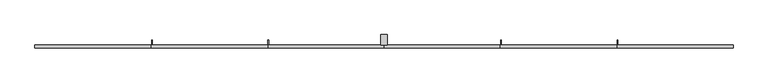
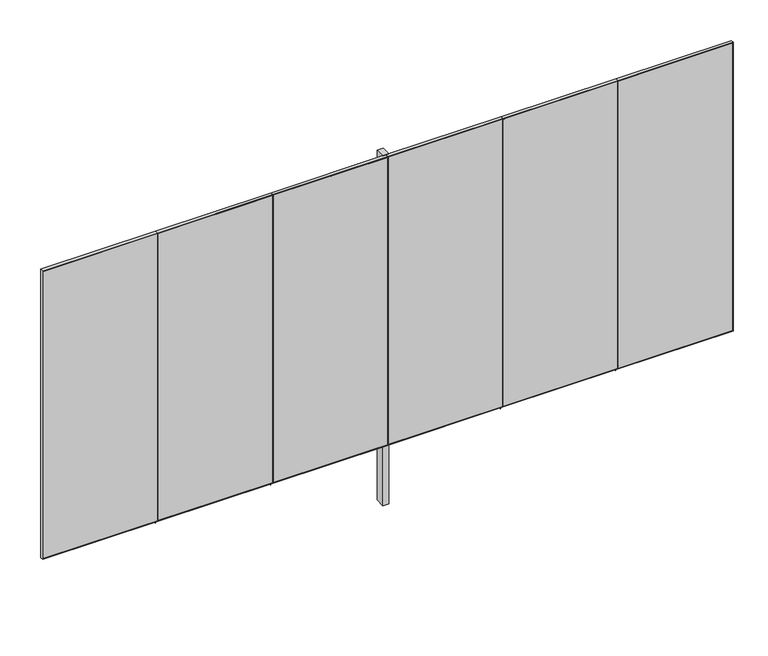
"""IFC4 building model written with IfcOpenShell, lengths in millimetres: furniture geometry, H105 Reja 6 módulos : H105.1 Reja 6 módulos 690x310."""

from ifc_helpers import new_model, si_unit, frame, origin, place, context, project, spatial, polyline, outline, extrude, source, transform, mapped, element, save


def furniture_b4863d8b(model_context):
    return source(origin(), model_context, "Body", "SweptSolid", [
        extrude(outline(polyline([(1224.7003264, -468.0), (1224.7003264, -568.0), (1164.7003264, -568.0), (1164.7003264, -468.0), (1224.7003264, -468.0)])), frame((0.0, 0.0, -600.0), z_axis=(0.0, 0.0, 1.0), x_axis=(1.0, 0.0, 0.0)), (0.0, 0.0, 1.0), 3700.0),
        extrude(outline(polyline([(3100.0, 3494.7003264), (3100.0, 2344.7003264), (50.0, 2344.7003264), (50.0, 3494.7003264), (3100.0, 3494.7003264)]), holes=[polyline([(3093.0, 3491.2003264), (57.0, 3491.2003264), (57.0, 2348.2003264), (3093.0, 2348.2003264), (3093.0, 3491.2003264)])]), frame((0.0, -600.0, 0.0), z_axis=(0.0, 1.0, 0.0), x_axis=(0.0, 0.0, 1.0)), (0.0, 0.0, 1.0), 32.0),
        extrude(outline(polyline([(3491.2003264, -600.0), (2348.2003264, -600.0), (2348.2003264, -597.0), (3491.2003264, -597.0), (3491.2003264, -600.0)])), frame((0.0, 0.0, 57.0), z_axis=(0.0, 0.0, 1.0), x_axis=(1.0, 0.0, 0.0)), (0.0, 0.0, 1.0), 3036.0),
        extrude(outline(polyline([(3100.0, 2344.7003264), (3100.0, 1194.7003264), (50.0, 1194.7003264), (50.0, 2344.7003264), (3100.0, 2344.7003264)]), holes=[polyline([(3093.0, 2341.2003264), (57.0, 2341.2003264), (57.0, 1198.2003264), (3093.0, 1198.2003264), (3093.0, 2341.2003264)])]), frame((0.0, -600.0, 0.0), z_axis=(0.0, 1.0, 0.0), x_axis=(0.0, 0.0, 1.0)), (0.0, 0.0, 1.0), 32.0),
        extrude(outline(polyline([(2341.2003264, -600.0), (1198.2003264, -600.0), (1198.2003264, -597.0), (2341.2003264, -597.0), (2341.2003264, -600.0)])), frame((0.0, 0.0, 57.0), z_axis=(0.0, 0.0, 1.0), x_axis=(1.0, 0.0, 0.0)), (0.0, 0.0, 1.0), 3036.0),
        extrude(outline(polyline([(3100.0, 44.7003264), (3100.0, -1105.2996736), (50.0, -1105.2996736), (50.0, 44.7003264), (3100.0, 44.7003264)]), holes=[polyline([(3093.0, 41.2003264), (57.0, 41.2003264), (57.0, -1101.7996736), (3093.0, -1101.7996736), (3093.0, 41.2003264)])]), frame((0.0, -600.0, 0.0), z_axis=(0.0, 1.0, 0.0), x_axis=(0.0, 0.0, 1.0)), (0.0, 0.0, 1.0), 32.0),
        extrude(outline(polyline([(4637.7003264, -600.0), (3498.2003264, -600.0), (3498.2003264, -597.0), (4637.7003264, -597.0), (4637.7003264, -600.0)])), frame((0.0, 0.0, 57.0), z_axis=(0.0, 0.0, 1.0), x_axis=(1.0, 0.0, 0.0)), (0.0, 0.0, 1.0), 3036.0),
        extrude(outline(polyline([(3100.0, 4644.7003264), (3100.0, 3494.7003264), (50.0, 3494.7003264), (50.0, 4644.7003264), (3100.0, 4644.7003264)]), holes=[polyline([(3093.0, 4637.7003264), (57.0, 4637.7003264), (57.0, 3498.2003264), (3093.0, 3498.2003264), (3093.0, 4637.7003264)])]), frame((0.0, -600.0, 0.0), z_axis=(0.0, 1.0, 0.0), x_axis=(0.0, 0.0, 1.0)), (0.0, 0.0, 1.0), 32.0),
        extrude(outline(polyline([(1191.2003264, -600.0), (48.2003264, -600.0), (48.2003264, -597.0), (1191.2003264, -597.0), (1191.2003264, -600.0)])), frame((0.0, 0.0, 57.0), z_axis=(0.0, 0.0, 1.0), x_axis=(1.0, 0.0, 0.0)), (0.0, 0.0, 1.0), 3036.0),
        extrude(outline(polyline([(3100.0, 1194.7003264), (3100.0, 44.7003264), (50.0, 44.7003264), (50.0, 1194.7003264), (3100.0, 1194.7003264)]), holes=[polyline([(3093.0, 1191.2003264), (57.0, 1191.2003264), (57.0, 48.2003264), (3093.0, 48.2003264), (3093.0, 1191.2003264)])]), frame((0.0, -600.0, 0.0), z_axis=(0.0, 1.0, 0.0), x_axis=(0.0, 0.0, 1.0)), (0.0, 0.0, 1.0), 32.0),
        extrude(outline(polyline([(41.2003264, -600.0), (-1101.7996736, -600.0), (-1101.7996736, -597.0), (41.2003264, -597.0), (41.2003264, -600.0)])), frame((0.0, 0.0, 57.0), z_axis=(0.0, 0.0, 1.0), x_axis=(1.0, 0.0, 0.0)), (0.0, 0.0, 1.0), 3036.0),
        extrude(outline(polyline([(-1108.7996736, -600.0), (-2248.2996736, -600.0), (-2248.2996736, -597.0), (-1108.7996736, -597.0), (-1108.7996736, -600.0)])), frame((0.0, 0.0, 57.0), z_axis=(0.0, 0.0, 1.0), x_axis=(1.0, 0.0, 0.0)), (0.0, 0.0, 1.0), 3036.0),
        extrude(outline(polyline([(3100.0, -1105.2996736), (3100.0, -2255.2996736), (50.0, -2255.2996736), (50.0, -1105.2996736), (3100.0, -1105.2996736)]), holes=[polyline([(3093.0, -1108.7996736), (57.0, -1108.7996736), (57.0, -2248.2996736), (3093.0, -2248.2996736), (3093.0, -1108.7996736)])]), frame((0.0, -600.0, 0.0), z_axis=(0.0, 1.0, 0.0), x_axis=(0.0, 0.0, 1.0)), (0.0, 0.0, 1.0), 32.0),
        extrude(outline(polyline([(-522.0, 82.0), (-522.0, 0.0), (-547.0, 0.0), (-547.0, 57.0), (-597.0, 57.0), (-597.0, 82.0), (-522.0, 82.0)])), frame((2348.2003264, 0.0, 0.0), z_axis=(1.0, 0.0, 0.0), x_axis=(0.0, 1.0, 0.0)), (0.0, 0.0, 1.0), 7.0),
        extrude(outline(polyline([(-522.0, 82.0), (-522.0, 0.0), (-547.0, 0.0), (-547.0, 57.0), (-597.0, 57.0), (-597.0, 82.0), (-522.0, 82.0)])), frame((3498.2003264, 0.0, 0.0), z_axis=(1.0, 0.0, 0.0), x_axis=(0.0, 1.0, 0.0)), (0.0, 0.0, 1.0), 7.0),
        extrude(outline(polyline([(-522.0, 82.0), (-522.0, 0.0), (-547.0, 0.0), (-547.0, 57.0), (-597.0, 57.0), (-597.0, 82.0), (-522.0, 82.0)])), frame((-1101.7996736, 0.0, 0.0), z_axis=(1.0, 0.0, 0.0), x_axis=(0.0, 1.0, 0.0)), (0.0, 0.0, 1.0), 7.0),
        extrude(outline(polyline([(-522.0, 82.0), (-522.0, 0.0), (-547.0, 0.0), (-547.0, 57.0), (-597.0, 57.0), (-597.0, 82.0), (-522.0, 82.0)])), frame((48.2003264, 0.0, 0.0), z_axis=(1.0, 0.0, 0.0), x_axis=(0.0, 1.0, 0.0)), (0.0, 0.0, 1.0), 7.0),
    ])


if __name__ == "__main__":
    model = new_model("IFC4")
    model_context = context("Model", 3, world=origin())
    ifc_project = project(units=[si_unit("LENGTHUNIT", "METRE", prefix="MILLI")], contexts=[model_context])
    site = spatial("IfcSite", under=ifc_project)
    building = spatial("IfcBuilding", under=site)
    placement = place(None, origin())
    furniture_shape = furniture_b4863d8b(model_context)
    element("IfcFurniture", 1, ObjectType="H105 Reja 6 módulos : H105.1 Reja 6 módulos 690x310", at=placement, inside=building, context=model_context, shape_type="MappedRepresentation", body=[
        mapped(furniture_shape, transform((0.0, 0.0, 0.0), x_axis=(1.0, 0.0, 0.0), y_axis=(0.0, 1.0, 0.0), z_axis=(0.0, 0.0, 1.0))),
    ])
    save(model, "model.ifc")
